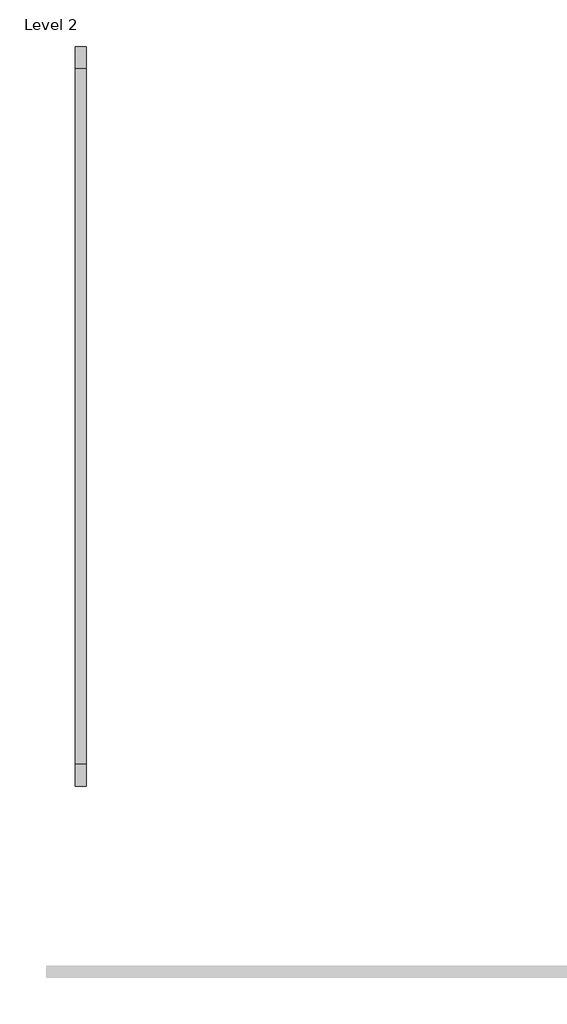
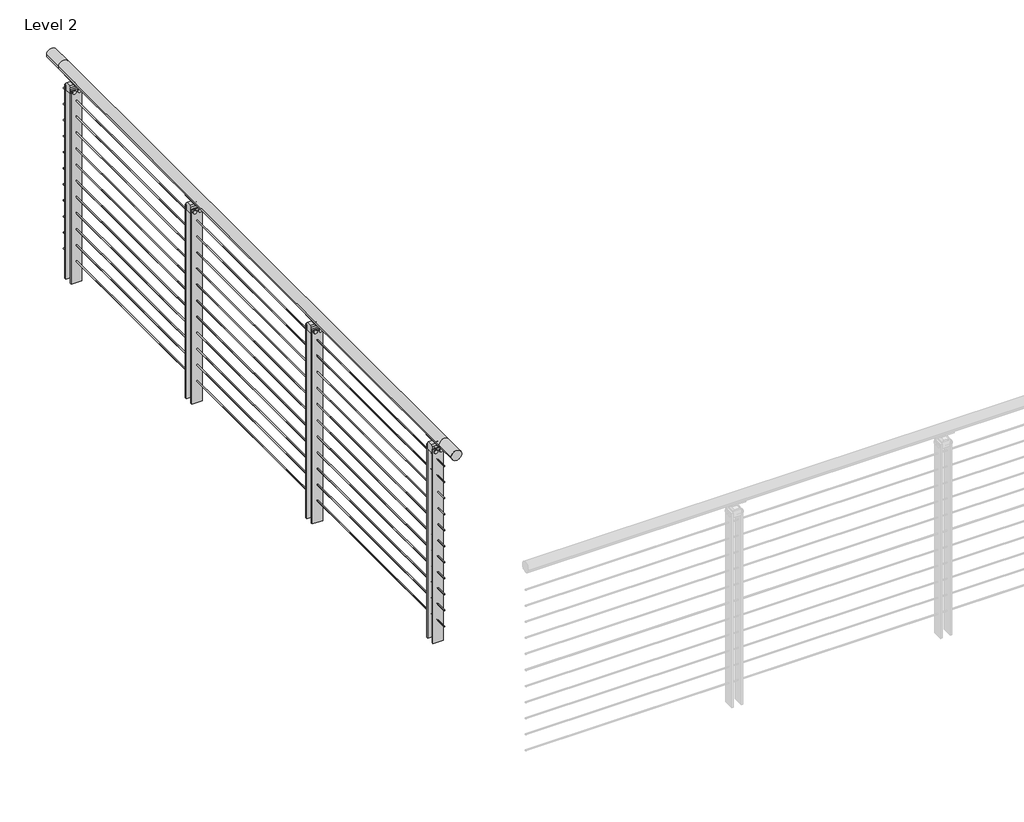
# One storey, part 26 of 31: 1 railing.
"""IFC4 building model written with IfcOpenShell, lengths in millimetres."""

from ifc_helpers import new_model, si_unit, point, frame, frame_2d, origin, place, context, project, spatial, polyline, circle_curve, trimmed, segment, composite_curve, outline, extrude, element, save
from ifc_brep_helpers import plane_surface, cylinder_surface, revolved_surface, advanced_brep

model = new_model("IFC4")

# Units and contexts
model_context = context("Model", 3, world=origin())
ifc_project = project(units=[si_unit("LENGTHUNIT", "METRE", prefix="MILLI")], contexts=[model_context])

# Site, building, storey
site = spatial("IfcSite", under=ifc_project)
building = spatial("IfcBuilding", under=site)
storey = spatial("IfcBuildingStorey", under=building, Name="Level 2", Elevation=3048.0)

# Railing
placement = place(None, origin())
element("IfcRailing", 1, ObjectType="VIVA-BLADE-Cable-Weld Mount-Straight", at=placement, inside=storey, context=model_context, shape_type="SolidModel", body=[
    advanced_brep(
    [(41230.3572927, -51362.5040223, 4102.1), (41179.5572927, -51362.5040223, 4102.1), (41230.3572927, -51260.9040223, 4102.1), (41179.5572927, -51260.9040223, 4102.1), (41230.3572927, -48053.4426165, 4102.1), (41179.5572927, -48053.4426165, 4102.1), (41230.3572927, -47951.8426165, 4102.1), (41179.5572927, -47951.8426165, 4102.1)],
    [
        (0, 1, circle_curve(frame((41204.9572927, -51362.5040223, 4102.1), z_axis=(0.0, -1.0, 0.0), x_axis=(-1.0, 0.0, 0.0)), 25.4)),
        (1, 0, circle_curve(frame((41204.9572927, -51362.5040223, 4102.1), z_axis=(0.0, -1.0, 0.0), x_axis=(-1.0, 0.0, 0.0)), 25.4)),
        (0, 2),
        (2, 3, circle_curve(frame((41204.9572927, -51260.9040223, 4102.1), z_axis=(0.0, -1.0, 0.0), x_axis=(-1.0, 0.0, 0.0)), 25.4)),
        (3, 1),
        (3, 2, circle_curve(frame((41204.9572927, -51260.9040223, 4102.1), z_axis=(0.0, -1.0, 0.0), x_axis=(-1.0, 0.0, 0.0)), 25.4)),
        (2, 4),
        (4, 5, circle_curve(frame((41204.9572927, -48053.4426165, 4102.1), z_axis=(0.0, -1.0, 0.0), x_axis=(-1.0, 0.0, 0.0)), 25.4)),
        (5, 3),
        (5, 4, circle_curve(frame((41204.9572927, -48053.4426165, 4102.1), z_axis=(0.0, -1.0, 0.0), x_axis=(-1.0, 0.0, 0.0)), 25.4)),
        (6, 7, circle_curve(frame((41204.9572927, -47951.8426165, 4102.1), z_axis=(0.0, 1.0, 0.0), x_axis=(-1.0, 0.0, 0.0)), 25.4)),
        (7, 6, circle_curve(frame((41204.9572927, -47951.8426165, 4102.1), z_axis=(0.0, 1.0, 0.0), x_axis=(-1.0, 0.0, 0.0)), 25.4)),
        (4, 6),
        (7, 5),
    ],
    [
        plane_surface(frame((41204.9572927, -51362.5040223, 4127.5), z_axis=(0.0, -1.0, 0.0), x_axis=(0.0, 0.0, 1.0))),
        cylinder_surface(frame((41204.9572927, -51362.5040223, 4102.1), z_axis=(0.0, -1.0, 0.0), x_axis=(-1.0, 0.0, 0.0)), 25.4),
        cylinder_surface(frame((41204.9572927, -51260.9040223, 4102.1), z_axis=(0.0, -1.0, 0.0), x_axis=(-1.0, 0.0, 0.0)), 25.4),
        plane_surface(frame((41204.9572927, -47951.8426165, 4127.5), z_axis=(0.0, 1.0, 0.0), x_axis=(0.0, 0.0, 1.0))),
        cylinder_surface(frame((41204.9572927, -48053.4426165, 4102.1), z_axis=(0.0, -1.0, 0.0), x_axis=(-1.0, 0.0, 0.0)), 25.4),
    ],
    [
        (0, [[1, 2]]),
        (1, [[-1, 3, 4, 5]]),
        (1, [[-2, -5, 6, -3]]),
        (2, [[-4, 7, 8, 9]]),
        (2, [[-6, -9, 10, -7]]),
        (3, [[11, 12]]),
        (4, [[-8, 13, -12, 14]]),
        (4, [[-10, -14, -11, -13]]),
    ],
),
    extrude(outline(composite_curve([segment(trimmed(circle_curve(frame_2d((3985.4124, 41204.9572927)), 2.3876), [point((3985.4124, 41207.3448927))], [point((3985.4124, 41202.5696927))], False, "CARTESIAN"), True, "CONTINUOUS"), segment(trimmed(circle_curve(frame_2d((3985.4124, 41204.9572927)), 2.3876), [point((3985.4124, 41202.5696927))], [point((3985.4124, 41207.3448927))], False, "CARTESIAN"), True, "CONTINUOUS")], self_intersect=False)), frame((0.0, -51260.9040223, 0.0), z_axis=(0.0, 1.0, 0.0), x_axis=(0.0, 0.0, 1.0)), (0.0, 0.0, 1.0), 3207.4614057),
    extrude(outline(composite_curve([segment(trimmed(circle_curve(frame_2d((3902.8624, 41204.9572927)), 2.3876), [point((3902.8624, 41207.3448927))], [point((3902.8624, 41202.5696927))], False, "CARTESIAN"), True, "CONTINUOUS"), segment(trimmed(circle_curve(frame_2d((3902.8624, 41204.9572927)), 2.3876), [point((3902.8624, 41202.5696927))], [point((3902.8624, 41207.3448927))], False, "CARTESIAN"), True, "CONTINUOUS")], self_intersect=False)), frame((0.0, -51260.9040223, 0.0), z_axis=(0.0, 1.0, 0.0), x_axis=(0.0, 0.0, 1.0)), (0.0, 0.0, 1.0), 3207.4614057),
    extrude(outline(composite_curve([segment(trimmed(circle_curve(frame_2d((3820.3124, 41204.9572927)), 2.3876), [point((3820.3124, 41207.3448927))], [point((3820.3124, 41202.5696927))], False, "CARTESIAN"), True, "CONTINUOUS"), segment(trimmed(circle_curve(frame_2d((3820.3124, 41204.9572927)), 2.3876), [point((3820.3124, 41202.5696927))], [point((3820.3124, 41207.3448927))], False, "CARTESIAN"), True, "CONTINUOUS")], self_intersect=False)), frame((0.0, -51260.9040223, 0.0), z_axis=(0.0, 1.0, 0.0), x_axis=(0.0, 0.0, 1.0)), (0.0, 0.0, 1.0), 3207.4614057),
    extrude(outline(composite_curve([segment(trimmed(circle_curve(frame_2d((3737.7624, 41204.9572927)), 2.3876), [point((3737.7624, 41207.3448927))], [point((3737.7624, 41202.5696927))], False, "CARTESIAN"), True, "CONTINUOUS"), segment(trimmed(circle_curve(frame_2d((3737.7624, 41204.9572927)), 2.3876), [point((3737.7624, 41202.5696927))], [point((3737.7624, 41207.3448927))], False, "CARTESIAN"), True, "CONTINUOUS")], self_intersect=False)), frame((0.0, -51260.9040223, 0.0), z_axis=(0.0, 1.0, 0.0), x_axis=(0.0, 0.0, 1.0)), (0.0, 0.0, 1.0), 3207.4614057),
    extrude(outline(composite_curve([segment(trimmed(circle_curve(frame_2d((3655.2124, 41204.9572927)), 2.3876), [point((3655.2124, 41207.3448927))], [point((3655.2124, 41202.5696927))], False, "CARTESIAN"), True, "CONTINUOUS"), segment(trimmed(circle_curve(frame_2d((3655.2124, 41204.9572927)), 2.3876), [point((3655.2124, 41202.5696927))], [point((3655.2124, 41207.3448927))], False, "CARTESIAN"), True, "CONTINUOUS")], self_intersect=False)), frame((0.0, -51260.9040223, 0.0), z_axis=(0.0, 1.0, 0.0), x_axis=(0.0, 0.0, 1.0)), (0.0, 0.0, 1.0), 3207.4614057),
    extrude(outline(composite_curve([segment(trimmed(circle_curve(frame_2d((3572.6624, 41204.9572927)), 2.3876), [point((3572.6624, 41207.3448927))], [point((3572.6624, 41202.5696927))], False, "CARTESIAN"), True, "CONTINUOUS"), segment(trimmed(circle_curve(frame_2d((3572.6624, 41204.9572927)), 2.3876), [point((3572.6624, 41202.5696927))], [point((3572.6624, 41207.3448927))], False, "CARTESIAN"), True, "CONTINUOUS")], self_intersect=False)), frame((0.0, -51260.9040223, 0.0), z_axis=(0.0, 1.0, 0.0), x_axis=(0.0, 0.0, 1.0)), (0.0, 0.0, 1.0), 3207.4614057),
    extrude(outline(composite_curve([segment(trimmed(circle_curve(frame_2d((3490.1124, 41204.9572927)), 2.3876), [point((3490.1124, 41207.3448927))], [point((3490.1124, 41202.5696927))], False, "CARTESIAN"), True, "CONTINUOUS"), segment(trimmed(circle_curve(frame_2d((3490.1124, 41204.9572927)), 2.3876), [point((3490.1124, 41202.5696927))], [point((3490.1124, 41207.3448927))], False, "CARTESIAN"), True, "CONTINUOUS")], self_intersect=False)), frame((0.0, -51260.9040223, 0.0), z_axis=(0.0, 1.0, 0.0), x_axis=(0.0, 0.0, 1.0)), (0.0, 0.0, 1.0), 3207.4614057),
    extrude(outline(composite_curve([segment(trimmed(circle_curve(frame_2d((3407.5624, 41204.9572927)), 2.3876), [point((3407.5624, 41207.3448927))], [point((3407.5624, 41202.5696927))], False, "CARTESIAN"), True, "CONTINUOUS"), segment(trimmed(circle_curve(frame_2d((3407.5624, 41204.9572927)), 2.3876), [point((3407.5624, 41202.5696927))], [point((3407.5624, 41207.3448927))], False, "CARTESIAN"), True, "CONTINUOUS")], self_intersect=False)), frame((0.0, -51260.9040223, 0.0), z_axis=(0.0, 1.0, 0.0), x_axis=(0.0, 0.0, 1.0)), (0.0, 0.0, 1.0), 3207.4614057),
    extrude(outline(composite_curve([segment(trimmed(circle_curve(frame_2d((3325.0124, 41204.9572927)), 2.3876), [point((3325.0124, 41207.3448927))], [point((3325.0124, 41202.5696927))], False, "CARTESIAN"), True, "CONTINUOUS"), segment(trimmed(circle_curve(frame_2d((3325.0124, 41204.9572927)), 2.3876), [point((3325.0124, 41202.5696927))], [point((3325.0124, 41207.3448927))], False, "CARTESIAN"), True, "CONTINUOUS")], self_intersect=False)), frame((0.0, -51260.9040223, 0.0), z_axis=(0.0, 1.0, 0.0), x_axis=(0.0, 0.0, 1.0)), (0.0, 0.0, 1.0), 3207.4614057),
    extrude(outline(composite_curve([segment(trimmed(circle_curve(frame_2d((3242.4624, 41204.9572927)), 2.3876), [point((3242.4624, 41207.3448927))], [point((3242.4624, 41202.5696927))], False, "CARTESIAN"), True, "CONTINUOUS"), segment(trimmed(circle_curve(frame_2d((3242.4624, 41204.9572927)), 2.3876), [point((3242.4624, 41202.5696927))], [point((3242.4624, 41207.3448927))], False, "CARTESIAN"), True, "CONTINUOUS")], self_intersect=False)), frame((0.0, -51260.9040223, 0.0), z_axis=(0.0, 1.0, 0.0), x_axis=(0.0, 0.0, 1.0)), (0.0, 0.0, 1.0), 3207.4614057),
    extrude(outline(composite_curve([segment(trimmed(circle_curve(frame_2d((3159.9124, 41204.9572927)), 2.3876), [point((3159.9124, 41207.3448927))], [point((3159.9124, 41202.5696927))], False, "CARTESIAN"), True, "CONTINUOUS"), segment(trimmed(circle_curve(frame_2d((3159.9124, 41204.9572927)), 2.3876), [point((3159.9124, 41202.5696927))], [point((3159.9124, 41207.3448927))], False, "CARTESIAN"), True, "CONTINUOUS")], self_intersect=False)), frame((0.0, -51260.9040223, 0.0), z_axis=(0.0, 1.0, 0.0), x_axis=(0.0, 0.0, 1.0)), (0.0, 0.0, 1.0), 3207.4614057),
    advanced_brep(
    [(41217.7174163, -48087.9359194, 4080.0967655), (41221.5533137, -48087.9359194, 4075.707533), (41190.0364215, -48087.9359194, 4075.1267745), (41192.8453518, -48087.9359194, 4079.9535285), (41217.7174163, -48178.4107194, 4080.0967655), (41192.7583797, -48178.4107194, 4080.0018447), (41189.9226281, -48178.4107194, 4075.1893964), (41221.5533137, -48178.4107194, 4075.707533)],
    [
        (0, 1, circle_curve(frame((41219.264974, -48087.9359194, 4077.5784521), z_axis=(0.0, 1.0, 0.0), x_axis=(1.0, 0.0, 0.0)), 2.9558141)),
        (1, 2, circle_curve(frame((41205.2870765, -48087.9359194, 4102.9742164), z_axis=(0.0, 1.0, 0.0), x_axis=(1.0, 0.0, 0.0)), 31.75)),
        (2, 3, circle_curve(frame((41191.5137265, -48087.9359194, 4077.4993599), z_axis=(0.0, 1.0, 0.0), x_axis=(1.0, 0.0, 0.0)), 2.7949225)),
        (3, 0, circle_curve(frame((41205.1536134, -48087.9359194, 4102.2115898), z_axis=(0.0, -1.0, 0.0), x_axis=(1.0, 0.0, 0.0)), 25.4345159)),
        (4, 5, circle_curve(frame((41205.1536134, -48178.4107194, 4102.2115898), z_axis=(0.0, 1.0, 0.0), x_axis=(1.0, 0.0, 0.0)), 25.4345159)),
        (5, 6, circle_curve(frame((41191.5137265, -48178.4107194, 4077.4993599), z_axis=(0.0, -1.0, 0.0), x_axis=(1.0, 0.0, 0.0)), 2.7949225)),
        (6, 7, circle_curve(frame((41205.2870765, -48178.4107194, 4102.9742164), z_axis=(0.0, -1.0, 0.0), x_axis=(1.0, 0.0, 0.0)), 31.75)),
        (7, 4, circle_curve(frame((41219.264974, -48178.4107194, 4077.5784521), z_axis=(0.0, -1.0, 0.0), x_axis=(1.0, 0.0, 0.0)), 2.9558141)),
        (3, 5),
        (4, 0),
        (2, 6),
        (1, 7),
    ],
    [
        plane_surface(frame((41230.5881293, -48087.9359194, 4102.2115898), z_axis=(0.0, 1.0, 0.0), x_axis=(0.0, 0.0, -1.0))),
        plane_surface(frame((41230.5881293, -48178.4107194, 4102.2115898), z_axis=(0.0, -1.0, 0.0), x_axis=(0.0, 0.0, 1.0))),
        revolved_surface(polyline([(41230.5881293, -48178.4107194, 4102.2115898), (41230.5881293, -48087.9359194, 4102.2115898)]), (41205.1536134, -48178.4107194, 4102.2115898), (0.0, -1.0, 0.0)),
        cylinder_surface(frame((41191.5137265, -48178.4107194, 4077.4993599), z_axis=(0.0, 1.0, 0.0), x_axis=(1.0, 0.0, 0.0)), 2.7949225),
        cylinder_surface(frame((41205.2870765, -48178.4107194, 4102.9742164), z_axis=(0.0, 1.0, 0.0), x_axis=(1.0, 0.0, 0.0)), 31.75),
        cylinder_surface(frame((41219.264974, -48178.4107194, 4077.5784521), z_axis=(0.0, 1.0, 0.0), x_axis=(1.0, 0.0, 0.0)), 2.9558141),
    ],
    [
        (0, [[1, 2, 3, 4]]),
        (1, [[5, 6, 7, 8]]),
        (2, [[9, -5, 10, -4]]),
        (3, [[11, -6, -9, -3]]),
        (4, [[12, -7, -11, -2]]),
        (5, [[-10, -8, -12, -1]]),
    ],
),
    extrude(outline(composite_curve([segment(polyline([(-48120.4733194, 4062.4125), (-48145.8733194, 4062.4125)]), True, "CONTINUOUS"), segment(trimmed(circle_curve(frame_2d((-48160.2412343, 4062.4125)), 14.3679149), [point((-48145.8733194, 4062.4125))], [point((-48160.2412343, 4076.7804149))], True, "CARTESIAN"), True, "CONTINUOUS"), segment(polyline([(-48160.2412343, 4076.7804149), (-48106.1054045, 4076.7804149)]), True, "CONTINUOUS"), segment(trimmed(circle_curve(frame_2d((-48106.1054045, 4062.4125)), 14.3679149), [point((-48106.1054045, 4076.7804149))], [point((-48120.4733194, 4062.4125))], True, "CARTESIAN"), True, "CONTINUOUS")], self_intersect=False)), frame((41202.4172927, 0.0, 0.0), z_axis=(1.0, 0.0, 0.0), x_axis=(0.0, 1.0, 0.0)), (0.0, 0.0, 1.0), 5.08),
    extrude(outline(polyline([(41230.3570894, -48160.2481551), (41179.5547647, -48160.2481551), (41179.5547647, -48152.2233194), (41230.3570894, -48152.2233194), (41230.3570894, -48160.2481551)])), frame((0.0, 0.0, 3048.0), z_axis=(0.0, 0.0, 1.0), x_axis=(1.0, 0.0, 0.0)), (0.0, 0.0, 1.0), 996.95),
    extrude(outline(composite_curve([segment(trimmed(circle_curve(frame_2d((4034.0416929, 41192.2548158)), 8.89), [point((4034.0416929, 41183.3648158))], [point((4034.0416929, 41201.1448158))], False, "CARTESIAN"), True, "CONTINUOUS"), segment(trimmed(circle_curve(frame_2d((4034.0416929, 41192.2548158)), 8.89), [point((4034.0416929, 41201.1448158))], [point((4034.0416929, 41183.3648158))], False, "CARTESIAN"), True, "CONTINUOUS")], self_intersect=False)), frame((0.0, -48164.9233194, 0.0), z_axis=(0.0, 1.0, 0.0), x_axis=(0.0, 0.0, 1.0)), (0.0, 0.0, 1.0), 63.4880631),
    extrude(outline(composite_curve([segment(trimmed(circle_curve(frame_2d((4034.0416929, 41217.6547137)), 8.89), [point((4034.0416929, 41208.7647137))], [point((4034.0416929, 41226.5447137))], False, "CARTESIAN"), True, "CONTINUOUS"), segment(trimmed(circle_curve(frame_2d((4034.0416929, 41217.6547137)), 8.89), [point((4034.0416929, 41226.5447137))], [point((4034.0416929, 41208.7647137))], False, "CARTESIAN"), True, "CONTINUOUS")], self_intersect=False)), frame((0.0, -48164.9233194, 0.0), z_axis=(0.0, 1.0, 0.0), x_axis=(0.0, 0.0, 1.0)), (0.0, 0.0, 1.0), 63.4880631),
    extrude(outline(polyline([(-48152.2233194, 4022.7123), (-48152.2233194, 4056.0625), (-48145.8733194, 4062.4125), (-48120.4733194, 4062.4125), (-48114.1233194, 4056.0625), (-48114.1233194, 4022.7123), (-48152.2233194, 4022.7123)])), frame((41179.5547647, 0.0, 0.0), z_axis=(1.0, 0.0, 0.0), x_axis=(0.0, 1.0, 0.0)), (0.0, 0.0, 1.0), 50.8025279),
    extrude(outline(polyline([(41230.3570894, -48114.1233574), (41179.5547647, -48114.1233574), (41179.5547647, -48106.1223574), (41230.3570894, -48106.1223574), (41230.3570894, -48114.1233574)])), frame((0.0, 0.0, 3048.0), z_axis=(0.0, 0.0, 1.0), x_axis=(1.0, 0.0, 0.0)), (0.0, 0.0, 1.0), 996.95),
    advanced_brep(
    [(41217.7174163, -49103.9359194, 4080.0967655), (41221.5533137, -49103.9359194, 4075.707533), (41190.0364215, -49103.9359194, 4075.1267745), (41192.8453518, -49103.9359194, 4079.9535285), (41217.7174163, -49194.4107194, 4080.0967655), (41192.7583797, -49194.4107194, 4080.0018447), (41189.9226281, -49194.4107194, 4075.1893964), (41221.5533137, -49194.4107194, 4075.707533)],
    [
        (0, 1, circle_curve(frame((41219.264974, -49103.9359194, 4077.5784521), z_axis=(0.0, 1.0, 0.0), x_axis=(1.0, 0.0, 0.0)), 2.9558141)),
        (1, 2, circle_curve(frame((41205.2870765, -49103.9359194, 4102.9742164), z_axis=(0.0, 1.0, 0.0), x_axis=(1.0, 0.0, 0.0)), 31.75)),
        (2, 3, circle_curve(frame((41191.5137265, -49103.9359194, 4077.4993599), z_axis=(0.0, 1.0, 0.0), x_axis=(1.0, 0.0, 0.0)), 2.7949225)),
        (3, 0, circle_curve(frame((41205.1536134, -49103.9359194, 4102.2115898), z_axis=(0.0, -1.0, 0.0), x_axis=(1.0, 0.0, 0.0)), 25.4345159)),
        (4, 5, circle_curve(frame((41205.1536134, -49194.4107194, 4102.2115898), z_axis=(0.0, 1.0, 0.0), x_axis=(1.0, 0.0, 0.0)), 25.4345159)),
        (5, 6, circle_curve(frame((41191.5137265, -49194.4107194, 4077.4993599), z_axis=(0.0, -1.0, 0.0), x_axis=(1.0, 0.0, 0.0)), 2.7949225)),
        (6, 7, circle_curve(frame((41205.2870765, -49194.4107194, 4102.9742164), z_axis=(0.0, -1.0, 0.0), x_axis=(1.0, 0.0, 0.0)), 31.75)),
        (7, 4, circle_curve(frame((41219.264974, -49194.4107194, 4077.5784521), z_axis=(0.0, -1.0, 0.0), x_axis=(1.0, 0.0, 0.0)), 2.9558141)),
        (3, 5),
        (4, 0),
        (2, 6),
        (1, 7),
    ],
    [
        plane_surface(frame((41230.5881293, -49103.9359194, 4102.2115898), z_axis=(0.0, 1.0, 0.0), x_axis=(0.0, 0.0, -1.0))),
        plane_surface(frame((41230.5881293, -49194.4107194, 4102.2115898), z_axis=(0.0, -1.0, 0.0), x_axis=(0.0, 0.0, 1.0))),
        revolved_surface(polyline([(41230.5881293, -49194.4107194, 4102.2115898), (41230.5881293, -49103.9359194, 4102.2115898)]), (41205.1536134, -49194.4107194, 4102.2115898), (0.0, -1.0, 0.0)),
        cylinder_surface(frame((41191.5137265, -49194.4107194, 4077.4993599), z_axis=(0.0, 1.0, 0.0), x_axis=(1.0, 0.0, 0.0)), 2.7949225),
        cylinder_surface(frame((41205.2870765, -49194.4107194, 4102.9742164), z_axis=(0.0, 1.0, 0.0), x_axis=(1.0, 0.0, 0.0)), 31.75),
        cylinder_surface(frame((41219.264974, -49194.4107194, 4077.5784521), z_axis=(0.0, 1.0, 0.0), x_axis=(1.0, 0.0, 0.0)), 2.9558141),
    ],
    [
        (0, [[1, 2, 3, 4]]),
        (1, [[5, 6, 7, 8]]),
        (2, [[9, -5, 10, -4]]),
        (3, [[11, -6, -9, -3]]),
        (4, [[12, -7, -11, -2]]),
        (5, [[-10, -8, -12, -1]]),
    ],
),
    extrude(outline(composite_curve([segment(polyline([(-49136.4733194, 4062.4125), (-49161.8733194, 4062.4125)]), True, "CONTINUOUS"), segment(trimmed(circle_curve(frame_2d((-49176.2412343, 4062.4125)), 14.3679149), [point((-49161.8733194, 4062.4125))], [point((-49176.2412343, 4076.7804149))], True, "CARTESIAN"), True, "CONTINUOUS"), segment(polyline([(-49176.2412343, 4076.7804149), (-49122.1054045, 4076.7804149)]), True, "CONTINUOUS"), segment(trimmed(circle_curve(frame_2d((-49122.1054045, 4062.4125)), 14.3679149), [point((-49122.1054045, 4076.7804149))], [point((-49136.4733194, 4062.4125))], True, "CARTESIAN"), True, "CONTINUOUS")], self_intersect=False)), frame((41202.4172927, 0.0, 0.0), z_axis=(1.0, 0.0, 0.0), x_axis=(0.0, 1.0, 0.0)), (0.0, 0.0, 1.0), 5.08),
    extrude(outline(polyline([(41230.3570894, -49176.2481551), (41179.5547647, -49176.2481551), (41179.5547647, -49168.2233194), (41230.3570894, -49168.2233194), (41230.3570894, -49176.2481551)])), frame((0.0, 0.0, 3048.0), z_axis=(0.0, 0.0, 1.0), x_axis=(1.0, 0.0, 0.0)), (0.0, 0.0, 1.0), 996.95),
    extrude(outline(composite_curve([segment(trimmed(circle_curve(frame_2d((4034.0416929, 41192.2548158)), 8.89), [point((4034.0416929, 41183.3648158))], [point((4034.0416929, 41201.1448158))], False, "CARTESIAN"), True, "CONTINUOUS"), segment(trimmed(circle_curve(frame_2d((4034.0416929, 41192.2548158)), 8.89), [point((4034.0416929, 41201.1448158))], [point((4034.0416929, 41183.3648158))], False, "CARTESIAN"), True, "CONTINUOUS")], self_intersect=False)), frame((0.0, -49180.9233194, 0.0), z_axis=(0.0, 1.0, 0.0), x_axis=(0.0, 0.0, 1.0)), (0.0, 0.0, 1.0), 63.4880631),
    extrude(outline(composite_curve([segment(trimmed(circle_curve(frame_2d((4034.0416929, 41217.6547137)), 8.89), [point((4034.0416929, 41208.7647137))], [point((4034.0416929, 41226.5447137))], False, "CARTESIAN"), True, "CONTINUOUS"), segment(trimmed(circle_curve(frame_2d((4034.0416929, 41217.6547137)), 8.89), [point((4034.0416929, 41226.5447137))], [point((4034.0416929, 41208.7647137))], False, "CARTESIAN"), True, "CONTINUOUS")], self_intersect=False)), frame((0.0, -49180.9233194, 0.0), z_axis=(0.0, 1.0, 0.0), x_axis=(0.0, 0.0, 1.0)), (0.0, 0.0, 1.0), 63.4880631),
    extrude(outline(polyline([(-49168.2233194, 4022.7123), (-49168.2233194, 4056.0625), (-49161.8733194, 4062.4125), (-49136.4733194, 4062.4125), (-49130.1233194, 4056.0625), (-49130.1233194, 4022.7123), (-49168.2233194, 4022.7123)])), frame((41179.5547647, 0.0, 0.0), z_axis=(1.0, 0.0, 0.0), x_axis=(0.0, 1.0, 0.0)), (0.0, 0.0, 1.0), 50.8025279),
    extrude(outline(polyline([(41230.3570894, -49130.1233574), (41179.5547647, -49130.1233574), (41179.5547647, -49122.1223574), (41230.3570894, -49122.1223574), (41230.3570894, -49130.1233574)])), frame((0.0, 0.0, 3048.0), z_axis=(0.0, 0.0, 1.0), x_axis=(1.0, 0.0, 0.0)), (0.0, 0.0, 1.0), 996.95),
    advanced_brep(
    [(41217.7174163, -50119.9359194, 4080.0967655), (41221.5533137, -50119.9359194, 4075.707533), (41190.0364215, -50119.9359194, 4075.1267745), (41192.8453518, -50119.9359194, 4079.9535285), (41217.7174163, -50210.4107194, 4080.0967655), (41192.7583797, -50210.4107194, 4080.0018447), (41189.9226281, -50210.4107194, 4075.1893964), (41221.5533137, -50210.4107194, 4075.707533)],
    [
        (0, 1, circle_curve(frame((41219.264974, -50119.9359194, 4077.5784521), z_axis=(0.0, 1.0, 0.0), x_axis=(1.0, 0.0, 0.0)), 2.9558141)),
        (1, 2, circle_curve(frame((41205.2870765, -50119.9359194, 4102.9742164), z_axis=(0.0, 1.0, 0.0), x_axis=(1.0, 0.0, 0.0)), 31.75)),
        (2, 3, circle_curve(frame((41191.5137265, -50119.9359194, 4077.4993599), z_axis=(0.0, 1.0, 0.0), x_axis=(1.0, 0.0, 0.0)), 2.7949225)),
        (3, 0, circle_curve(frame((41205.1536134, -50119.9359194, 4102.2115898), z_axis=(0.0, -1.0, 0.0), x_axis=(1.0, 0.0, 0.0)), 25.4345159)),
        (4, 5, circle_curve(frame((41205.1536134, -50210.4107194, 4102.2115898), z_axis=(0.0, 1.0, 0.0), x_axis=(1.0, 0.0, 0.0)), 25.4345159)),
        (5, 6, circle_curve(frame((41191.5137265, -50210.4107194, 4077.4993599), z_axis=(0.0, -1.0, 0.0), x_axis=(1.0, 0.0, 0.0)), 2.7949225)),
        (6, 7, circle_curve(frame((41205.2870765, -50210.4107194, 4102.9742164), z_axis=(0.0, -1.0, 0.0), x_axis=(1.0, 0.0, 0.0)), 31.75)),
        (7, 4, circle_curve(frame((41219.264974, -50210.4107194, 4077.5784521), z_axis=(0.0, -1.0, 0.0), x_axis=(1.0, 0.0, 0.0)), 2.9558141)),
        (3, 5),
        (4, 0),
        (2, 6),
        (1, 7),
    ],
    [
        plane_surface(frame((41230.5881293, -50119.9359194, 4102.2115898), z_axis=(0.0, 1.0, 0.0), x_axis=(0.0, 0.0, -1.0))),
        plane_surface(frame((41230.5881293, -50210.4107194, 4102.2115898), z_axis=(0.0, -1.0, 0.0), x_axis=(0.0, 0.0, 1.0))),
        revolved_surface(polyline([(41230.5881293, -50210.4107194, 4102.2115898), (41230.5881293, -50119.9359194, 4102.2115898)]), (41205.1536134, -50210.4107194, 4102.2115898), (0.0, -1.0, 0.0)),
        cylinder_surface(frame((41191.5137265, -50210.4107194, 4077.4993599), z_axis=(0.0, 1.0, 0.0), x_axis=(1.0, 0.0, 0.0)), 2.7949225),
        cylinder_surface(frame((41205.2870765, -50210.4107194, 4102.9742164), z_axis=(0.0, 1.0, 0.0), x_axis=(1.0, 0.0, 0.0)), 31.75),
        cylinder_surface(frame((41219.264974, -50210.4107194, 4077.5784521), z_axis=(0.0, 1.0, 0.0), x_axis=(1.0, 0.0, 0.0)), 2.9558141),
    ],
    [
        (0, [[1, 2, 3, 4]]),
        (1, [[5, 6, 7, 8]]),
        (2, [[9, -5, 10, -4]]),
        (3, [[11, -6, -9, -3]]),
        (4, [[12, -7, -11, -2]]),
        (5, [[-10, -8, -12, -1]]),
    ],
),
    extrude(outline(composite_curve([segment(polyline([(-50152.4733194, 4062.4125), (-50177.8733194, 4062.4125)]), True, "CONTINUOUS"), segment(trimmed(circle_curve(frame_2d((-50192.2412343, 4062.4125)), 14.3679149), [point((-50177.8733194, 4062.4125))], [point((-50192.2412343, 4076.7804149))], True, "CARTESIAN"), True, "CONTINUOUS"), segment(polyline([(-50192.2412343, 4076.7804149), (-50138.1054045, 4076.7804149)]), True, "CONTINUOUS"), segment(trimmed(circle_curve(frame_2d((-50138.1054045, 4062.4125)), 14.3679149), [point((-50138.1054045, 4076.7804149))], [point((-50152.4733194, 4062.4125))], True, "CARTESIAN"), True, "CONTINUOUS")], self_intersect=False)), frame((41202.4172927, 0.0, 0.0), z_axis=(1.0, 0.0, 0.0), x_axis=(0.0, 1.0, 0.0)), (0.0, 0.0, 1.0), 5.08),
    extrude(outline(polyline([(41230.3570894, -50192.2481551), (41179.5547647, -50192.2481551), (41179.5547647, -50184.2233194), (41230.3570894, -50184.2233194), (41230.3570894, -50192.2481551)])), frame((0.0, 0.0, 3048.0), z_axis=(0.0, 0.0, 1.0), x_axis=(1.0, 0.0, 0.0)), (0.0, 0.0, 1.0), 996.95),
    extrude(outline(composite_curve([segment(trimmed(circle_curve(frame_2d((4034.0416929, 41192.2548158)), 8.89), [point((4034.0416929, 41183.3648158))], [point((4034.0416929, 41201.1448158))], False, "CARTESIAN"), True, "CONTINUOUS"), segment(trimmed(circle_curve(frame_2d((4034.0416929, 41192.2548158)), 8.89), [point((4034.0416929, 41201.1448158))], [point((4034.0416929, 41183.3648158))], False, "CARTESIAN"), True, "CONTINUOUS")], self_intersect=False)), frame((0.0, -50196.9233194, 0.0), z_axis=(0.0, 1.0, 0.0), x_axis=(0.0, 0.0, 1.0)), (0.0, 0.0, 1.0), 63.4880631),
    extrude(outline(composite_curve([segment(trimmed(circle_curve(frame_2d((4034.0416929, 41217.6547137)), 8.89), [point((4034.0416929, 41208.7647137))], [point((4034.0416929, 41226.5447137))], False, "CARTESIAN"), True, "CONTINUOUS"), segment(trimmed(circle_curve(frame_2d((4034.0416929, 41217.6547137)), 8.89), [point((4034.0416929, 41226.5447137))], [point((4034.0416929, 41208.7647137))], False, "CARTESIAN"), True, "CONTINUOUS")], self_intersect=False)), frame((0.0, -50196.9233194, 0.0), z_axis=(0.0, 1.0, 0.0), x_axis=(0.0, 0.0, 1.0)), (0.0, 0.0, 1.0), 63.4880631),
    extrude(outline(polyline([(-50184.2233194, 4022.7123), (-50184.2233194, 4056.0625), (-50177.8733194, 4062.4125), (-50152.4733194, 4062.4125), (-50146.1233194, 4056.0625), (-50146.1233194, 4022.7123), (-50184.2233194, 4022.7123)])), frame((41179.5547647, 0.0, 0.0), z_axis=(1.0, 0.0, 0.0), x_axis=(0.0, 1.0, 0.0)), (0.0, 0.0, 1.0), 50.8025279),
    extrude(outline(polyline([(41230.3570894, -50146.1233574), (41179.5547647, -50146.1233574), (41179.5547647, -50138.1223574), (41230.3570894, -50138.1223574), (41230.3570894, -50146.1233574)])), frame((0.0, 0.0, 3048.0), z_axis=(0.0, 0.0, 1.0), x_axis=(1.0, 0.0, 0.0)), (0.0, 0.0, 1.0), 996.95),
    advanced_brep(
    [(41217.7174163, -51135.9359194, 4080.0967655), (41221.5533137, -51135.9359194, 4075.707533), (41190.0364215, -51135.9359194, 4075.1267745), (41192.8453518, -51135.9359194, 4079.9535285), (41217.7174163, -51226.4107194, 4080.0967655), (41192.7583797, -51226.4107194, 4080.0018447), (41189.9226281, -51226.4107194, 4075.1893964), (41221.5533137, -51226.4107194, 4075.707533)],
    [
        (0, 1, circle_curve(frame((41219.264974, -51135.9359194, 4077.5784521), z_axis=(0.0, 1.0, 0.0), x_axis=(1.0, 0.0, 0.0)), 2.9558141)),
        (1, 2, circle_curve(frame((41205.2870765, -51135.9359194, 4102.9742164), z_axis=(0.0, 1.0, 0.0), x_axis=(1.0, 0.0, 0.0)), 31.75)),
        (2, 3, circle_curve(frame((41191.5137265, -51135.9359194, 4077.4993599), z_axis=(0.0, 1.0, 0.0), x_axis=(1.0, 0.0, 0.0)), 2.7949225)),
        (3, 0, circle_curve(frame((41205.1536134, -51135.9359194, 4102.2115898), z_axis=(0.0, -1.0, 0.0), x_axis=(1.0, 0.0, 0.0)), 25.4345159)),
        (4, 5, circle_curve(frame((41205.1536134, -51226.4107194, 4102.2115898), z_axis=(0.0, 1.0, 0.0), x_axis=(1.0, 0.0, 0.0)), 25.4345159)),
        (5, 6, circle_curve(frame((41191.5137265, -51226.4107194, 4077.4993599), z_axis=(0.0, -1.0, 0.0), x_axis=(1.0, 0.0, 0.0)), 2.7949225)),
        (6, 7, circle_curve(frame((41205.2870765, -51226.4107194, 4102.9742164), z_axis=(0.0, -1.0, 0.0), x_axis=(1.0, 0.0, 0.0)), 31.75)),
        (7, 4, circle_curve(frame((41219.264974, -51226.4107194, 4077.5784521), z_axis=(0.0, -1.0, 0.0), x_axis=(1.0, 0.0, 0.0)), 2.9558141)),
        (3, 5),
        (4, 0),
        (2, 6),
        (1, 7),
    ],
    [
        plane_surface(frame((41230.5881293, -51135.9359194, 4102.2115898), z_axis=(0.0, 1.0, 0.0), x_axis=(0.0, 0.0, -1.0))),
        plane_surface(frame((41230.5881293, -51226.4107194, 4102.2115898), z_axis=(0.0, -1.0, 0.0), x_axis=(0.0, 0.0, 1.0))),
        revolved_surface(polyline([(41230.5881293, -51226.4107194, 4102.2115898), (41230.5881293, -51135.9359194, 4102.2115898)]), (41205.1536134, -51226.4107194, 4102.2115898), (0.0, -1.0, 0.0)),
        cylinder_surface(frame((41191.5137265, -51226.4107194, 4077.4993599), z_axis=(0.0, 1.0, 0.0), x_axis=(1.0, 0.0, 0.0)), 2.7949225),
        cylinder_surface(frame((41205.2870765, -51226.4107194, 4102.9742164), z_axis=(0.0, 1.0, 0.0), x_axis=(1.0, 0.0, 0.0)), 31.75),
        cylinder_surface(frame((41219.264974, -51226.4107194, 4077.5784521), z_axis=(0.0, 1.0, 0.0), x_axis=(1.0, 0.0, 0.0)), 2.9558141),
    ],
    [
        (0, [[1, 2, 3, 4]]),
        (1, [[5, 6, 7, 8]]),
        (2, [[9, -5, 10, -4]]),
        (3, [[11, -6, -9, -3]]),
        (4, [[12, -7, -11, -2]]),
        (5, [[-10, -8, -12, -1]]),
    ],
),
    extrude(outline(composite_curve([segment(polyline([(-51168.4733194, 4062.4125), (-51193.8733194, 4062.4125)]), True, "CONTINUOUS"), segment(trimmed(circle_curve(frame_2d((-51208.2412343, 4062.4125)), 14.3679149), [point((-51193.8733194, 4062.4125))], [point((-51208.2412343, 4076.7804149))], True, "CARTESIAN"), True, "CONTINUOUS"), segment(polyline([(-51208.2412343, 4076.7804149), (-51154.1054045, 4076.7804149)]), True, "CONTINUOUS"), segment(trimmed(circle_curve(frame_2d((-51154.1054045, 4062.4125)), 14.3679149), [point((-51154.1054045, 4076.7804149))], [point((-51168.4733194, 4062.4125))], True, "CARTESIAN"), True, "CONTINUOUS")], self_intersect=False)), frame((41202.4172927, 0.0, 0.0), z_axis=(1.0, 0.0, 0.0), x_axis=(0.0, 1.0, 0.0)), (0.0, 0.0, 1.0), 5.08),
    extrude(outline(polyline([(41230.3570894, -51208.2481551), (41179.5547647, -51208.2481551), (41179.5547647, -51200.2233194), (41230.3570894, -51200.2233194), (41230.3570894, -51208.2481551)])), frame((0.0, 0.0, 3048.0), z_axis=(0.0, 0.0, 1.0), x_axis=(1.0, 0.0, 0.0)), (0.0, 0.0, 1.0), 996.95),
    extrude(outline(composite_curve([segment(trimmed(circle_curve(frame_2d((4034.0416929, 41192.2548158)), 8.89), [point((4034.0416929, 41183.3648158))], [point((4034.0416929, 41201.1448158))], False, "CARTESIAN"), True, "CONTINUOUS"), segment(trimmed(circle_curve(frame_2d((4034.0416929, 41192.2548158)), 8.89), [point((4034.0416929, 41201.1448158))], [point((4034.0416929, 41183.3648158))], False, "CARTESIAN"), True, "CONTINUOUS")], self_intersect=False)), frame((0.0, -51212.9233194, 0.0), z_axis=(0.0, 1.0, 0.0), x_axis=(0.0, 0.0, 1.0)), (0.0, 0.0, 1.0), 63.4880631),
    extrude(outline(composite_curve([segment(trimmed(circle_curve(frame_2d((4034.0416929, 41217.6547137)), 8.89), [point((4034.0416929, 41208.7647137))], [point((4034.0416929, 41226.5447137))], False, "CARTESIAN"), True, "CONTINUOUS"), segment(trimmed(circle_curve(frame_2d((4034.0416929, 41217.6547137)), 8.89), [point((4034.0416929, 41226.5447137))], [point((4034.0416929, 41208.7647137))], False, "CARTESIAN"), True, "CONTINUOUS")], self_intersect=False)), frame((0.0, -51212.9233194, 0.0), z_axis=(0.0, 1.0, 0.0), x_axis=(0.0, 0.0, 1.0)), (0.0, 0.0, 1.0), 63.4880631),
    extrude(outline(polyline([(-51200.2233194, 4022.7123), (-51200.2233194, 4056.0625), (-51193.8733194, 4062.4125), (-51168.4733194, 4062.4125), (-51162.1233194, 4056.0625), (-51162.1233194, 4022.7123), (-51200.2233194, 4022.7123)])), frame((41179.5547647, 0.0, 0.0), z_axis=(1.0, 0.0, 0.0), x_axis=(0.0, 1.0, 0.0)), (0.0, 0.0, 1.0), 50.8025279),
    extrude(outline(polyline([(41230.3570894, -51162.1233574), (41179.5547647, -51162.1233574), (41179.5547647, -51154.1223574), (41230.3570894, -51154.1223574), (41230.3570894, -51162.1233574)])), frame((0.0, 0.0, 3048.0), z_axis=(0.0, 0.0, 1.0), x_axis=(1.0, 0.0, 0.0)), (0.0, 0.0, 1.0), 996.95),
])

save(model, "model.ifc")
